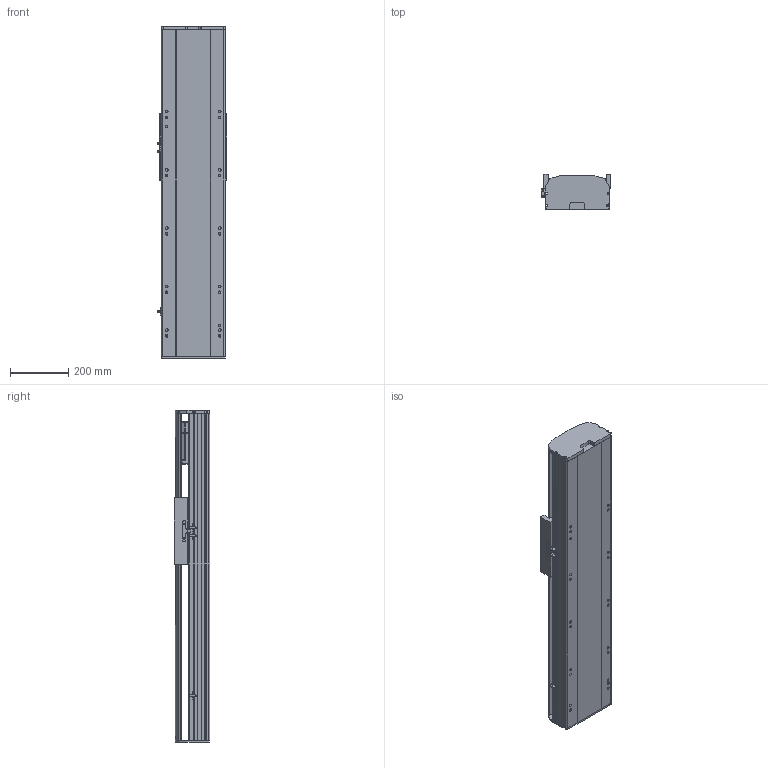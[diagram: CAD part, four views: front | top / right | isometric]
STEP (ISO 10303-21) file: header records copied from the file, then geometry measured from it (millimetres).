
FILE_DESCRIPTION (( 'STEP AP214' ), '1' );
FILE_NAME ('RTH22-XX-550-B-M75-C4.STEP', '2025-10-24T10:29:04', ( 'Microsoft' ), ( 'Microsoft' ), 'SwSTEP 2.0', 'SolidWorks 2018', '' );
FILE_SCHEMA (( 'AUTOMOTIVE_DESIGN' ));
Length unit declared in the file: millimetre
Products named in the file (9): N_RTH22-B-008萇儂啣^RTH22-XX-XX-B-M75-C4; N_RTH22-GY-001耜裔^RTH22-XX-XX-B-M75-C4; N_RTH22-E-004-SFS25賑釱^RTH22-XX-XX-B-M75-C4; N_RTH22-B-011菁釱^RTH22-XX-XX-B-M75-C4; N_RTH22-GY-013外置感应片^RTH22-XX-XX-B-M75-C4; RTH22-XX-550-B-M75-C4; N_750W萇儂^RTH22-XX-XX-B-M75-C4; N_RTH22-B-007奻裔^RTH22-XX-XX-B-M75-C4; N_OMRON EE-SX672 传感器^RTH22-XX-XX-B-M75-C4
Assembly tree (10 placements, depth 2):
  RTH22-XX-550-B-M75-C4
    N_RTH22-B-011菁釱^RTH22-XX-XX-B-M75-C4
    N_RTH22-GY-001耜裔^RTH22-XX-XX-B-M75-C4
    N_750W萇儂^RTH22-XX-XX-B-M75-C4
    N_RTH22-B-008萇儂啣^RTH22-XX-XX-B-M75-C4
    N_RTH22-B-007奻裔^RTH22-XX-XX-B-M75-C4
    N_OMRON EE-SX672 传感器^RTH22-XX-XX-B-M75-C4  x3
    N_RTH22-GY-013外置感应片^RTH22-XX-XX-B-M75-C4
    N_RTH22-E-004-SFS25賑釱^RTH22-XX-XX-B-M75-C4
Bounding box: 238.5 x 122 x 1140 mm (x, y, z)
Volume: 16227905.4 mm3; surface area: 1692488.9 mm2
Topology: 10 solids, 10 shells, 1497 faces, 4100 edges, 2653 vertices
Faces by surface type: plane 750, cylinder 418, bspline 279, cone 50
Entity records: 36775 total; most frequent: CARTESIAN_POINT 11549, ORIENTED_EDGE 5192, DIRECTION 4834, EDGE_CURVE 2596, VERTEX_POINT 1689, LINE 1614, VECTOR 1614, AXIS2_PLACEMENT_3D 1610
